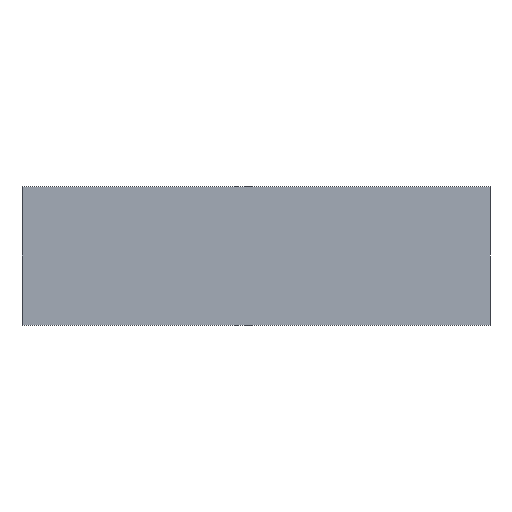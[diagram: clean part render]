
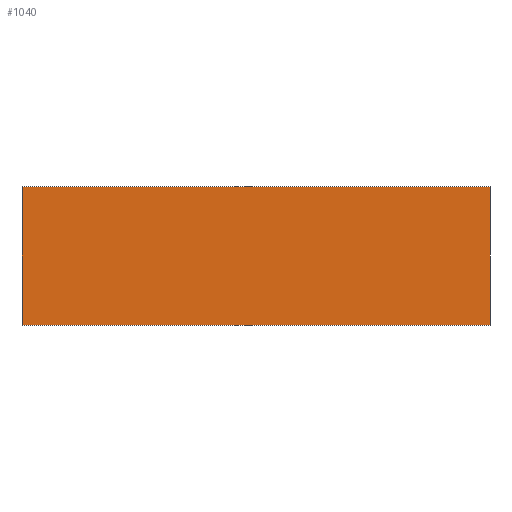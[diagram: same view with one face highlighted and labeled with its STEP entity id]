
A CAD part, front view. The second image highlights one B-rep face of the part: STEP entity #1040.
In plain terms, the highlighted planar face has unit normal (0, -1, 0).
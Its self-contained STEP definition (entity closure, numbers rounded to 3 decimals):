
#178=ORIENTED_EDGE('',*,*,#469,.T.);
#179=ORIENTED_EDGE('',*,*,#470,.T.);
#180=ORIENTED_EDGE('',*,*,#471,.F.);
#181=ORIENTED_EDGE('',*,*,#472,.F.);
#469=EDGE_CURVE('',#601,#605,#709,.T.);
#470=EDGE_CURVE('',#605,#606,#710,.T.);
#471=EDGE_CURVE('',#607,#606,#711,.T.);
#472=EDGE_CURVE('',#601,#607,#712,.T.);
#601=VERTEX_POINT('',#1628);
#605=VERTEX_POINT('',#1638);
#606=VERTEX_POINT('',#1642);
#607=VERTEX_POINT('',#1644);
#709=LINE('',#1639,#819);
#710=LINE('',#1641,#820);
#711=LINE('',#1643,#821);
#712=LINE('',#1645,#822);
#819=VECTOR('',#1319,1000.);
#820=VECTOR('',#1322,1000.);
#821=VECTOR('',#1323,1000.);
#822=VECTOR('',#1324,1000.);
#899=EDGE_LOOP('',(#178,#179,#180,#181));
#953=FACE_BOUND('',#899,.T.);
#998=PLANE('',#1126);
#1040=ADVANCED_FACE('',(#953),#998,.F.);
#1126=AXIS2_PLACEMENT_3D('',#1640,#1320,#1321);
#1319=DIRECTION('',(0.,0.,-1.));
#1320=DIRECTION('',(0.,1.,0.));
#1321=DIRECTION('',(0.,0.,1.));
#1322=DIRECTION('',(1.,0.,0.));
#1323=DIRECTION('',(0.,0.,-1.));
#1324=DIRECTION('',(1.,0.,0.));
#1628=CARTESIAN_POINT('',(-86.,0.,25.5));
#1638=CARTESIAN_POINT('',(-86.,0.,-25.5));
#1639=CARTESIAN_POINT('',(-86.,0.,25.5));
#1640=CARTESIAN_POINT('',(-86.,0.,25.5));
#1641=CARTESIAN_POINT('',(-86.,0.,-25.5));
#1642=CARTESIAN_POINT('',(86.,0.,-25.5));
#1643=CARTESIAN_POINT('',(86.,0.,25.5));
#1644=CARTESIAN_POINT('',(86.,0.,25.5));
#1645=CARTESIAN_POINT('',(-86.,0.,25.5));
